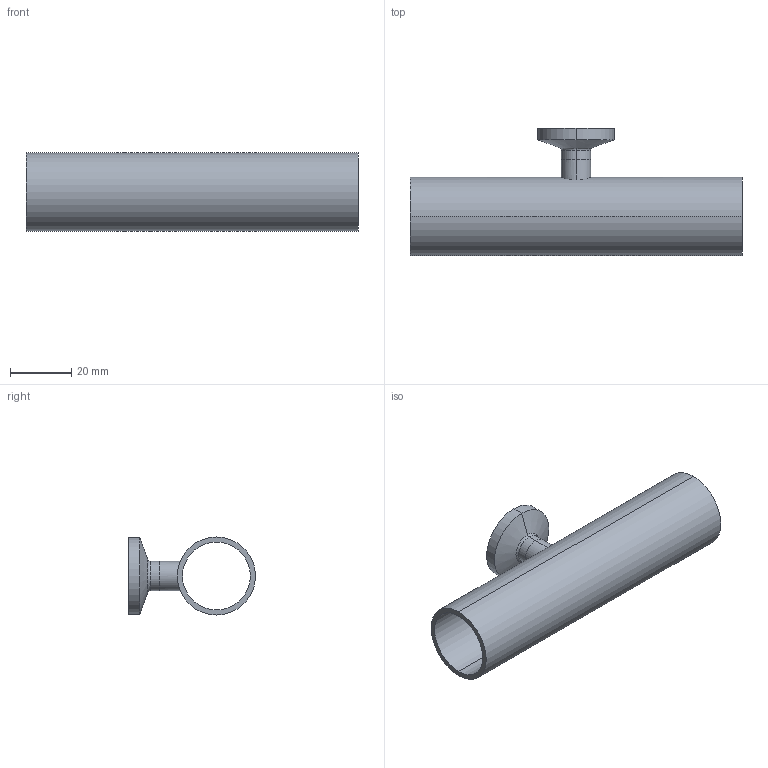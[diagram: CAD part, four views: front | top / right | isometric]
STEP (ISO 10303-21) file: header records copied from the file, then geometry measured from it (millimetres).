
FILE_DESCRIPTION (( 'STEP AP214' ), '1' );
FILE_NAME ('TE7RWWCS6L1.0x.375-...STEP', '2016-05-23T10:56:00', ( 'eran' ), ( '' ), 'SwSTEP 2.0', 'SolidWorks 2016', '' );
FILE_SCHEMA (( 'AUTOMOTIVE_DESIGN' ));
Length unit declared in the file: millimetre
Products named in the file (1): TE7RWWCS6L1.0x.375-..
Bounding box: 108 x 41.3 x 25.4 mm (x, y, z)
Volume: 15249.7 mm3; surface area: 18318 mm2
Topology: 2 solids, 2 shells, 34 faces, 72 edges, 44 vertices
Faces by surface type: cylinder 16, bspline 8, plane 6, cone 4
Entity records: 1191 total; most frequent: CARTESIAN_POINT 415, DIRECTION 162, ORIENTED_EDGE 144, EDGE_CURVE 72, AXIS2_PLACEMENT_3D 71, CIRCLE 44, VERTEX_POINT 44, EDGE_LOOP 42
